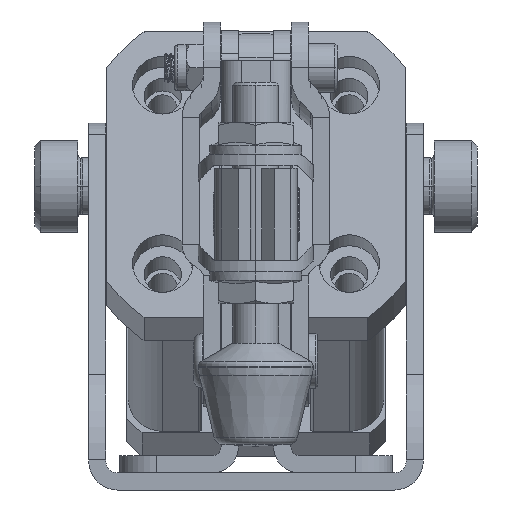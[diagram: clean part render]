
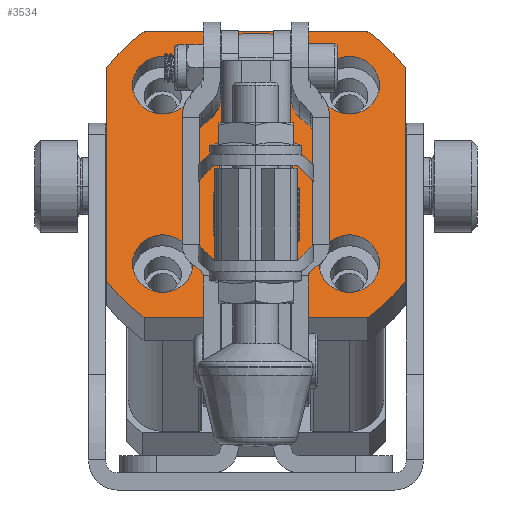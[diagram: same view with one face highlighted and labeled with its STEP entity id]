
A CAD part, left-side view. The second image highlights one B-rep face of the part: STEP entity #3534.
In plain terms, the highlighted planar face has unit normal (-0.956, 0, 0.293).
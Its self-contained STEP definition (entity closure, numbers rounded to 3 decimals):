
#3534=ADVANCED_FACE('',(#7390,#7391,#7392,#7393,#7394,#7395),#7396,.F.);
#7390=FACE_BOUND('',#13027,.T.);
#7391=FACE_OUTER_BOUND('',#13028,.T.);
#7392=FACE_BOUND('',#13029,.T.);
#7393=FACE_BOUND('',#13030,.T.);
#7394=FACE_BOUND('',#13031,.T.);
#7395=FACE_BOUND('',#13032,.T.);
#7396=PLANE('',#13033);
#13027=EDGE_LOOP('',(#24504,#24505,#24506));
#13028=EDGE_LOOP('',(#24507,#24508,#24509,#24510,#24511,#24512,#24513,#24514));
#13029=EDGE_LOOP('',(#24515,#24516));
#13030=EDGE_LOOP('',(#24517,#24518));
#13031=EDGE_LOOP('',(#24519,#24520));
#13032=EDGE_LOOP('',(#24521,#24522));
#13033=AXIS2_PLACEMENT_3D('',#24523,#24524,#24525);
#24504=ORIENTED_EDGE('',*,*,#31727,.T.);
#24505=ORIENTED_EDGE('',*,*,#31558,.T.);
#24506=ORIENTED_EDGE('',*,*,#31728,.T.);
#24507=ORIENTED_EDGE('',*,*,#31729,.T.);
#24508=ORIENTED_EDGE('',*,*,#31717,.T.);
#24509=ORIENTED_EDGE('',*,*,#31730,.T.);
#24510=ORIENTED_EDGE('',*,*,#31731,.T.);
#24511=ORIENTED_EDGE('',*,*,#31732,.T.);
#24512=ORIENTED_EDGE('',*,*,#31724,.F.);
#24513=ORIENTED_EDGE('',*,*,#31733,.T.);
#24514=ORIENTED_EDGE('',*,*,#31734,.F.);
#24515=ORIENTED_EDGE('',*,*,#31680,.F.);
#24516=ORIENTED_EDGE('',*,*,#31735,.F.);
#24517=ORIENTED_EDGE('',*,*,#31675,.F.);
#24518=ORIENTED_EDGE('',*,*,#31736,.F.);
#24519=ORIENTED_EDGE('',*,*,#31670,.F.);
#24520=ORIENTED_EDGE('',*,*,#31737,.F.);
#24521=ORIENTED_EDGE('',*,*,#31665,.F.);
#24522=ORIENTED_EDGE('',*,*,#31738,.F.);
#24523=CARTESIAN_POINT('',(49.661,0.0,61.506));
#24524=DIRECTION('',(0.956,0.,-0.293));
#24525=DIRECTION('',(0.0,-1.0,0.));
#31558=EDGE_CURVE('',#40148,#40145,#40149,.T.);
#31665=EDGE_CURVE('',#40334,#40337,#40338,.T.);
#31670=EDGE_CURVE('',#40343,#40346,#40347,.T.);
#31675=EDGE_CURVE('',#40352,#40355,#40356,.T.);
#31680=EDGE_CURVE('',#40361,#40364,#40365,.T.);
#31717=EDGE_CURVE('',#40428,#40426,#40429,.T.);
#31724=EDGE_CURVE('',#40438,#40434,#40440,.T.);
#31727=EDGE_CURVE('',#40443,#40148,#40444,.T.);
#31728=EDGE_CURVE('',#40145,#40443,#40445,.T.);
#31729=EDGE_CURVE('',#40446,#40428,#40447,.T.);
#31730=EDGE_CURVE('',#40426,#40448,#40449,.T.);
#31731=EDGE_CURVE('',#40448,#40450,#40451,.T.);
#31732=EDGE_CURVE('',#40450,#40434,#40452,.T.);
#31733=EDGE_CURVE('',#40438,#40453,#40454,.T.);
#31734=EDGE_CURVE('',#40446,#40453,#40455,.T.);
#31735=EDGE_CURVE('',#40364,#40361,#40456,.T.);
#31736=EDGE_CURVE('',#40355,#40352,#40457,.T.);
#31737=EDGE_CURVE('',#40346,#40343,#40458,.T.);
#31738=EDGE_CURVE('',#40337,#40334,#40459,.T.);
#40145=VERTEX_POINT('',#53940);
#40148=VERTEX_POINT('',#53944);
#40149=CIRCLE('',#53945,6.5);
#40334=VERTEX_POINT('',#54202);
#40337=VERTEX_POINT('',#54206);
#40338=CIRCLE('',#54207,5.25);
#40343=VERTEX_POINT('',#54213);
#40346=VERTEX_POINT('',#54217);
#40347=CIRCLE('',#54218,5.25);
#40352=VERTEX_POINT('',#54224);
#40355=VERTEX_POINT('',#54228);
#40356=CIRCLE('',#54229,5.25);
#40361=VERTEX_POINT('',#54235);
#40364=VERTEX_POINT('',#54239);
#40365=CIRCLE('',#54240,5.25);
#40426=VERTEX_POINT('',#54375);
#40428=VERTEX_POINT('',#54378);
#40429=LINE('',#54379,#54380);
#40434=VERTEX_POINT('',#54386);
#40438=VERTEX_POINT('',#54392);
#40440=LINE('',#54395,#54396);
#40443=VERTEX_POINT('',#54399);
#40444=CIRCLE('',#54400,6.5);
#40445=CIRCLE('',#54401,6.5);
#40446=VERTEX_POINT('',#54402);
#40447=CIRCLE('',#54403,32.5);
#40448=VERTEX_POINT('',#54404);
#40449=CIRCLE('',#54405,32.5);
#40450=VERTEX_POINT('',#54406);
#40451=LINE('',#54407,#54408);
#40452=CIRCLE('',#54409,32.5);
#40453=VERTEX_POINT('',#54410);
#40454=CIRCLE('',#54411,32.5);
#40455=LINE('',#54412,#54413);
#40456=CIRCLE('',#54414,5.25);
#40457=CIRCLE('',#54415,5.25);
#40458=CIRCLE('',#54416,5.25);
#40459=CIRCLE('',#54417,5.25);
#53940=CARTESIAN_POINT('',(45.744,0.,48.744));
#53944=CARTESIAN_POINT('',(49.559,0.,61.172));
#53945=AXIS2_PLACEMENT_3D('',#63127,#63128,#63129);
#54202=CARTESIAN_POINT('',(42.883,11.0,39.424));
#54206=CARTESIAN_POINT('',(42.883,21.5,39.424));
#54207=AXIS2_PLACEMENT_3D('',#63296,#63297,#63298);
#54213=CARTESIAN_POINT('',(42.883,-21.5,39.424));
#54217=CARTESIAN_POINT('',(42.883,-11.0,39.424));
#54218=AXIS2_PLACEMENT_3D('',#63304,#63305,#63306);
#54224=CARTESIAN_POINT('',(52.42,-21.5,70.493));
#54228=CARTESIAN_POINT('',(52.42,-11.0,70.493));
#54229=AXIS2_PLACEMENT_3D('',#63312,#63313,#63314);
#54235=CARTESIAN_POINT('',(52.42,11.0,70.493));
#54239=CARTESIAN_POINT('',(52.42,21.5,70.493));
#54240=AXIS2_PLACEMENT_3D('',#63320,#63321,#63322);
#54375=CARTESIAN_POINT('',(41.929,26.0,36.317));
#54378=CARTESIAN_POINT('',(53.374,26.0,73.599));
#54379=CARTESIAN_POINT('',(47.651,26.0,54.958));
#54380=VECTOR('',#63374,1.0);
#54386=CARTESIAN_POINT('',(41.929,-26.0,36.317));
#54392=CARTESIAN_POINT('',(53.374,-26.0,73.599));
#54395=CARTESIAN_POINT('',(47.651,-26.0,54.958));
#54396=VECTOR('',#63382,1.0);
#54399=CARTESIAN_POINT('',(47.651,6.5,54.958));
#54400=AXIS2_PLACEMENT_3D('',#63386,#63387,#63388);
#54401=AXIS2_PLACEMENT_3D('',#63389,#63390,#63391);
#54402=CARTESIAN_POINT('',(55.281,19.5,79.813));
#54403=AXIS2_PLACEMENT_3D('',#63392,#63393,#63394);
#54404=CARTESIAN_POINT('',(40.021,19.5,30.103));
#54405=AXIS2_PLACEMENT_3D('',#63395,#63396,#63397);
#54406=CARTESIAN_POINT('',(40.021,-19.5,30.103));
#54407=CARTESIAN_POINT('',(40.021,0.0,30.103));
#54408=VECTOR('',#63398,1.0);
#54409=AXIS2_PLACEMENT_3D('',#63399,#63400,#63401);
#54410=CARTESIAN_POINT('',(55.281,-19.5,79.813));
#54411=AXIS2_PLACEMENT_3D('',#63402,#63403,#63404);
#54412=CARTESIAN_POINT('',(55.281,0.0,79.813));
#54413=VECTOR('',#63405,1.0);
#54414=AXIS2_PLACEMENT_3D('',#63406,#63407,#63408);
#54415=AXIS2_PLACEMENT_3D('',#63409,#63410,#63411);
#54416=AXIS2_PLACEMENT_3D('',#63412,#63413,#63414);
#54417=AXIS2_PLACEMENT_3D('',#63415,#63416,#63417);
#63127=CARTESIAN_POINT('',(47.651,0.0,54.958));
#63128=DIRECTION('',(0.956,0.0,-0.293));
#63129=DIRECTION('',(0.0,1.0,0.0));
#63296=CARTESIAN_POINT('',(42.883,16.25,39.424));
#63297=DIRECTION('',(-0.956,0.0,0.293));
#63298=DIRECTION('',(0.0,-1.0,0.0));
#63304=CARTESIAN_POINT('',(42.883,-16.25,39.424));
#63305=DIRECTION('',(-0.956,0.0,0.293));
#63306=DIRECTION('',(0.0,-1.0,0.0));
#63312=CARTESIAN_POINT('',(52.42,-16.25,70.493));
#63313=DIRECTION('',(-0.956,0.0,0.293));
#63314=DIRECTION('',(0.0,-1.0,0.0));
#63320=CARTESIAN_POINT('',(52.42,16.25,70.493));
#63321=DIRECTION('',(-0.956,0.0,0.293));
#63322=DIRECTION('',(0.0,-1.0,0.0));
#63374=DIRECTION('',(-0.293,0.,-0.956));
#63382=DIRECTION('',(-0.293,0.,-0.956));
#63386=CARTESIAN_POINT('',(47.651,0.0,54.958));
#63387=DIRECTION('',(0.956,0.0,-0.293));
#63388=DIRECTION('',(0.0,1.0,0.0));
#63389=CARTESIAN_POINT('',(47.651,0.0,54.958));
#63390=DIRECTION('',(0.956,0.0,-0.293));
#63391=DIRECTION('',(0.0,1.0,0.0));
#63392=CARTESIAN_POINT('',(47.651,0.0,54.958));
#63393=DIRECTION('',(-0.956,0.0,0.293));
#63394=DIRECTION('',(0.0,-1.0,0.0));
#63395=CARTESIAN_POINT('',(47.651,0.0,54.958));
#63396=DIRECTION('',(-0.956,0.0,0.293));
#63397=DIRECTION('',(0.0,-1.0,0.0));
#63398=DIRECTION('',(0.,-1.0,0.));
#63399=CARTESIAN_POINT('',(47.651,0.0,54.958));
#63400=DIRECTION('',(-0.956,0.0,0.293));
#63401=DIRECTION('',(0.0,-1.0,0.0));
#63402=CARTESIAN_POINT('',(47.651,0.0,54.958));
#63403=DIRECTION('',(-0.956,0.0,0.293));
#63404=DIRECTION('',(0.0,-1.0,0.0));
#63405=DIRECTION('',(0.,-1.0,0.));
#63406=CARTESIAN_POINT('',(52.42,16.25,70.493));
#63407=DIRECTION('',(-0.956,0.0,0.293));
#63408=DIRECTION('',(0.0,-1.0,0.0));
#63409=CARTESIAN_POINT('',(52.42,-16.25,70.493));
#63410=DIRECTION('',(-0.956,0.0,0.293));
#63411=DIRECTION('',(0.0,-1.0,0.0));
#63412=CARTESIAN_POINT('',(42.883,-16.25,39.424));
#63413=DIRECTION('',(-0.956,0.0,0.293));
#63414=DIRECTION('',(0.0,-1.0,0.0));
#63415=CARTESIAN_POINT('',(42.883,16.25,39.424));
#63416=DIRECTION('',(-0.956,0.0,0.293));
#63417=DIRECTION('',(0.0,-1.0,0.0));
